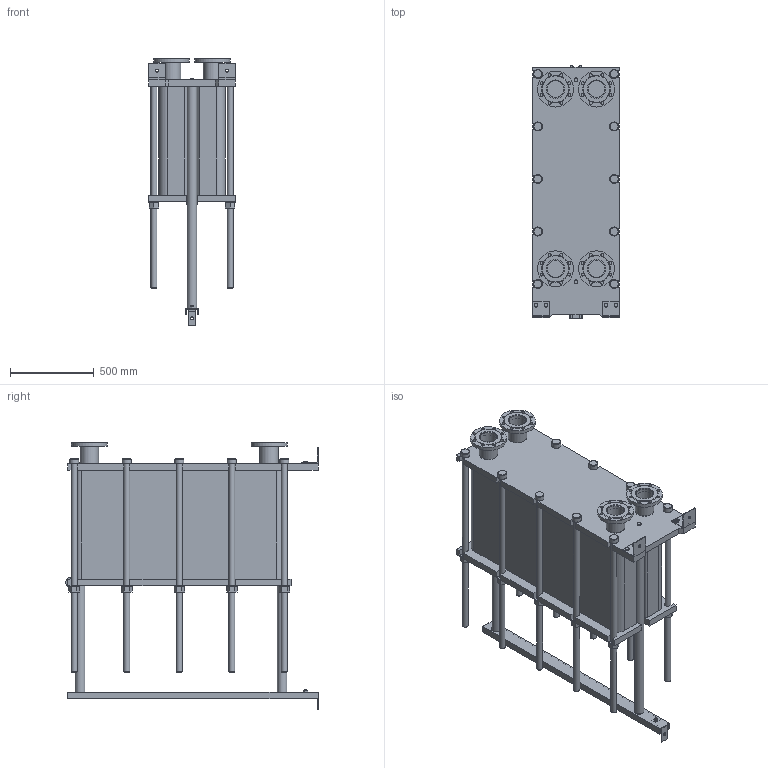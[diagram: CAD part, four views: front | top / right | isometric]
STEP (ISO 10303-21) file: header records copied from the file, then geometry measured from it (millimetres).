
FILE_DESCRIPTION(/* description */ (''),/* implementation_level */ '2;1');
FILE_NAME(/* name */ 'C:\Users\zhuro\Desktop\ENCO\TO\ЭН-04\ЭН-0,5-04-189-1.stp',/* time_stamp */ '2022-06-06T11:01:16+03:00',/* author */ ('zhuro'),/* organization */ (''),/* preprocessor_version */ 'ST-DEVELOPER v18.1',/* originating_system */ 'Autodesk Inventor 2022',/* authorisation */ '');
FILE_SCHEMA (('AUTOMOTIVE_DESIGN { 1 0 10303 214 3 1 1 }'));
Length unit declared in the file: millimetre
Products named in the file (1): ЭН-0,5-04-189-1
Bounding box: 520 x 1510 x 1604.5 mm (x, y, z)
Volume: 401862804.8 mm3; surface area: 10312380.4 mm2
Topology: 45 solids, 45 shells, 668 faces, 1611 edges, 1048 vertices
Faces by surface type: plane 457, cylinder 166, cone 39, torus 6
Full cylindrical faces by diameter (mm): 8 x4, 10 x2, 16 x8, 18 x35, 36 x25, 40 x2, 42 x1, 45 x4, 54 x10, 57 x2, 60 x10, 68 x2, 100 x4, 110 x8, 215 x4
Entity records: 23607 total; most frequent: CARTESIAN_POINT 7348, DIRECTION 3371, ORIENTED_EDGE 3142, EDGE_CURVE 1571, AXIS2_PLACEMENT_3D 1199, VERTEX_POINT 1044, LINE 973, VECTOR 973
